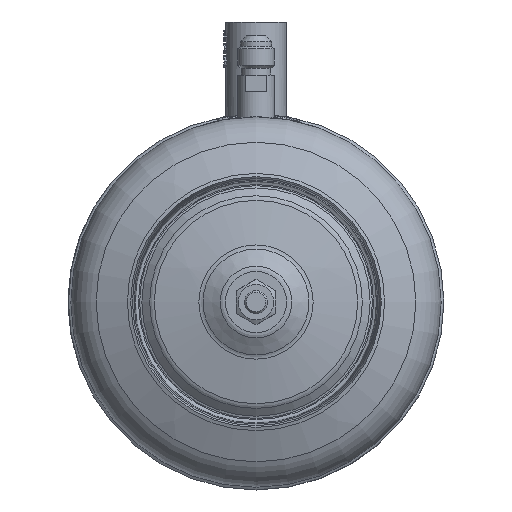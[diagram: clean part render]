
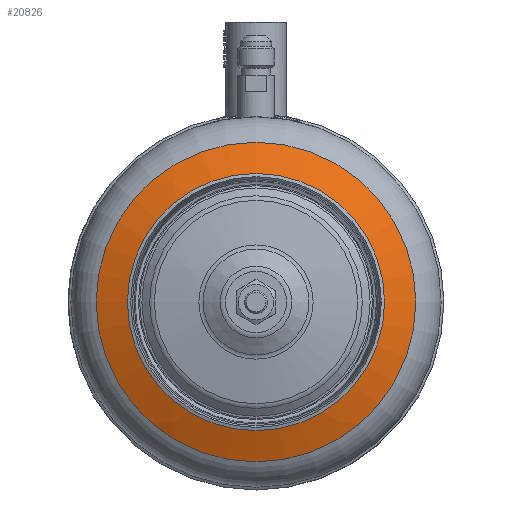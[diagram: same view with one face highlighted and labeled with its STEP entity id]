
A CAD part, front view. The second image highlights one B-rep face of the part: STEP entity #20826.
In plain terms, the highlighted spherical face has radius 163 mm.
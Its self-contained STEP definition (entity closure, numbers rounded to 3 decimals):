
#19=SPHERICAL_SURFACE('',#22301,163.);
#550=FACE_BOUND('',#3997,.T.);
#2719=FACE_OUTER_BOUND('',#3996,.T.);
#3996=EDGE_LOOP('',(#19369));
#3997=EDGE_LOOP('',(#19370));
#4209=CIRCLE('',#21127,53.097);
#4473=CIRCLE('',#22302,69.049);
#8608=VERTEX_POINT('',#29890);
#10256=VERTEX_POINT('',#44900);
#10862=EDGE_CURVE('',#8608,#8608,#4209,.T.);
#13329=EDGE_CURVE('',#10256,#10256,#4473,.T.);
#19369=ORIENTED_EDGE('',*,*,#13329,.T.);
#19370=ORIENTED_EDGE('',*,*,#10862,.T.);
#20826=ADVANCED_FACE('',(#2719,#550),#19,.T.);
#21127=AXIS2_PLACEMENT_3D('',#29891,#23157,#23158);
#22301=AXIS2_PLACEMENT_3D('',#44899,#26638,#26639);
#22302=AXIS2_PLACEMENT_3D('',#44901,#26640,#26641);
#23157=DIRECTION('center_axis',(0.,1.,0.));
#23158=DIRECTION('ref_axis',(0.,0.,-1.));
#26638=DIRECTION('center_axis',(-1.,0.,0.));
#26639=DIRECTION('ref_axis',(0.,0.,
-1.));
#26640=DIRECTION('center_axis',(0.,-1.,0.));
#26641=DIRECTION('ref_axis',(0.,0.,
1.));
#29890=CARTESIAN_POINT('',(0.,-168.109,-53.097));
#29891=CARTESIAN_POINT('Origin',(0.,-168.109,0.));
#44899=CARTESIAN_POINT('Origin',(0.,-14.,
0.));
#44900=CARTESIAN_POINT('',(0.,-161.653,69.049));
#44901=CARTESIAN_POINT('Origin',(0.,-161.653,
0.));
